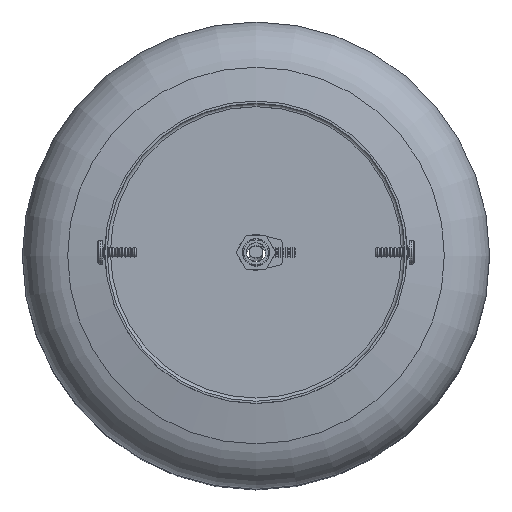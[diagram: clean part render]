
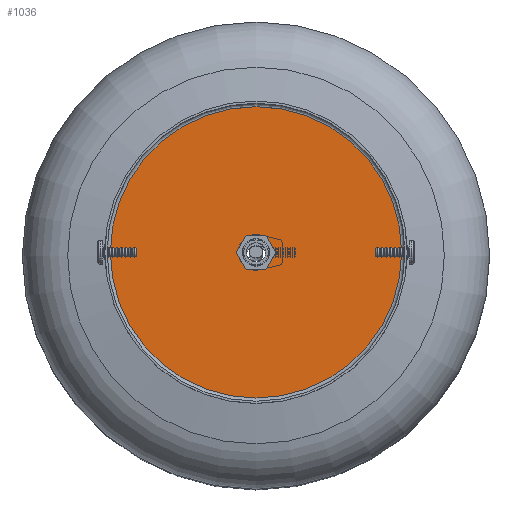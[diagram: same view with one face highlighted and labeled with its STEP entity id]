
A CAD part, top view. The second image highlights one B-rep face of the part: STEP entity #1036.
In plain terms, the highlighted planar face has unit normal (0, 0, 1).
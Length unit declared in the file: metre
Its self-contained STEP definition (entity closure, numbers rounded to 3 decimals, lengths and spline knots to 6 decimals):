
#1036 = ADVANCED_FACE( '', ( #1923, #1924 ), #1925, .T. );
#1923 = FACE_OUTER_BOUND( '', #3127, .T. );
#1924 = FACE_BOUND( '', #3128, .T. );
#1925 = PLANE( '', #3129 );
#3127 = EDGE_LOOP( '', ( #4767 ) );
#3128 = EDGE_LOOP( '', ( #4768 ) );
#3129 = AXIS2_PLACEMENT_3D( '', #4769, #4770, #4771 );
#4767 = ORIENTED_EDGE( '', *, *, #5701, .F. );
#4768 = ORIENTED_EDGE( '', *, *, #5703, .T. );
#4769 = CARTESIAN_POINT( '', ( 64.695192, 12.259196, 1.077821 ) );
#4770 = DIRECTION( '', ( 0., 0., 1. ) );
#4771 = DIRECTION( '', ( 1., 0., 0. ) );
#5701 = EDGE_CURVE( '', #6419, #6419, #6420, .T. );
#5703 = EDGE_CURVE( '', #6423, #6423, #6424, .F. );
#6419 = VERTEX_POINT( '', #7545 );
#6420 = CIRCLE( '', #7546, 0.053 );
#6423 = VERTEX_POINT( '', #7549 );
#6424 = CIRCLE( '', #7550, 0.005 );
#7545 = CARTESIAN_POINT( '', ( 64.671192, 12.259196, 1.077821 ) );
#7546 = AXIS2_PLACEMENT_3D( '', #8728, #8729, #8730 );
#7549 = CARTESIAN_POINT( '', ( 64.729192, 12.259196, 1.077821 ) );
#7550 = AXIS2_PLACEMENT_3D( '', #8734, #8735, #8736 );
#8728 = CARTESIAN_POINT( '', ( 64.724192, 12.259196, 1.077821 ) );
#8729 = DIRECTION( '', ( 0., 0., -1. ) );
#8730 = DIRECTION( '', ( -1., 0., 0. ) );
#8734 = CARTESIAN_POINT( '', ( 64.724192, 12.259196, 1.077821 ) );
#8735 = DIRECTION( '', ( 0., 0., 1. ) );
#8736 = DIRECTION( '', ( 1., 0., 0. ) );
